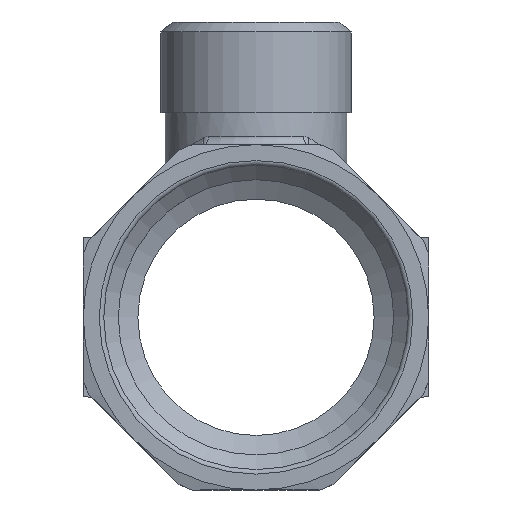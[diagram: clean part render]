
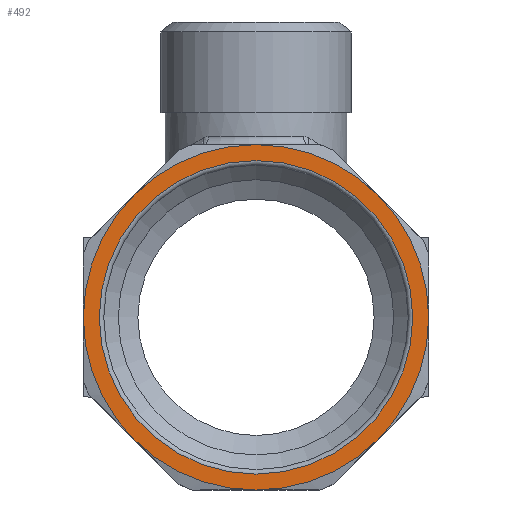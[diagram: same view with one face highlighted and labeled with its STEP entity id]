
A CAD part, front view. The second image highlights one B-rep face of the part: STEP entity #492.
In plain terms, the highlighted planar face has unit normal (0, -1, 0).
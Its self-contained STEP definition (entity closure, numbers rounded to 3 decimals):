
#492=ADVANCED_FACE('',(#5500,#5502),#5504,.F.);
#5500=FACE_BOUND('',#5501,.T.);
#5501=EDGE_LOOP('',(#10251,#10252,#10253,#10254,#10255,#10256,#10257,#10258));
#5502=FACE_BOUND('',#5503,.T.);
#5503=EDGE_LOOP('',(#10259));
#5504=PLANE('',#5505);
#5505=AXIS2_PLACEMENT_3D('',#5506,#5507,#5508);
#5506=CARTESIAN_POINT('',(0.,0.,0.));
#5507=DIRECTION('',(0.,1.,0.));
#5508=DIRECTION('',(-1.,0.,0.));
#10251=ORIENTED_EDGE('',*,*,#12918,.T.);
#10252=ORIENTED_EDGE('',*,*,#12917,.T.);
#10253=ORIENTED_EDGE('',*,*,#12916,.T.);
#10254=ORIENTED_EDGE('',*,*,#12923,.T.);
#10255=ORIENTED_EDGE('',*,*,#12922,.T.);
#10256=ORIENTED_EDGE('',*,*,#12921,.T.);
#10257=ORIENTED_EDGE('',*,*,#12920,.T.);
#10258=ORIENTED_EDGE('',*,*,#12919,.T.);
#10259=ORIENTED_EDGE('',*,*,#13103,.T.);
#12916=EDGE_CURVE('',#15473,#15529,#15569,.T.);
#12917=EDGE_CURVE('',#15481,#15473,#15570,.T.);
#12918=EDGE_CURVE('',#15489,#15481,#15571,.T.);
#12919=EDGE_CURVE('',#15497,#15489,#15572,.T.);
#12920=EDGE_CURVE('',#15505,#15497,#15573,.T.);
#12921=EDGE_CURVE('',#15513,#15505,#15574,.T.);
#12922=EDGE_CURVE('',#15521,#15513,#15575,.T.);
#12923=EDGE_CURVE('',#15529,#15521,#15576,.T.);
#13103=EDGE_CURVE('',#15935,#15935,#15936,.F.);
#15473=VERTEX_POINT('',#28514);
#15481=VERTEX_POINT('',#28573);
#15489=VERTEX_POINT('',#28622);
#15497=VERTEX_POINT('',#28683);
#15505=VERTEX_POINT('',#28732);
#15513=VERTEX_POINT('',#28791);
#15521=VERTEX_POINT('',#28840);
#15529=VERTEX_POINT('',#28899);
#15569=CIRCLE('',#29027,19.);
#15570=CIRCLE('',#29031,19.);
#15571=CIRCLE('',#29035,19.);
#15572=CIRCLE('',#29039,19.);
#15573=CIRCLE('',#29043,19.);
#15574=CIRCLE('',#29047,19.);
#15575=CIRCLE('',#29051,19.);
#15576=CIRCLE('',#29055,19.);
#15935=VERTEX_POINT('',#29778);
#15936=CIRCLE('',#29779,17.25);
#28514=CARTESIAN_POINT('',(0.,0.,19.));
#28573=CARTESIAN_POINT('',(13.435,0.,13.435));
#28622=CARTESIAN_POINT('',(19.,0.,0.));
#28683=CARTESIAN_POINT('',(13.435,0.,-13.435));
#28732=CARTESIAN_POINT('',(0.,0.,-19.));
#28791=CARTESIAN_POINT('',(-13.435,0.,-13.435));
#28840=CARTESIAN_POINT('',(-19.,0.,0.));
#28899=CARTESIAN_POINT('',(-13.435,0.,13.435));
#29027=AXIS2_PLACEMENT_3D('',#29028,#29029,#29030);
#29028=CARTESIAN_POINT('',(0.,0.,0.));
#29029=DIRECTION('',(0.,-1.,0.));
#29030=DIRECTION('',(0.,0.,1.));
#29031=AXIS2_PLACEMENT_3D('',#29032,#29033,#29034);
#29032=CARTESIAN_POINT('',(0.,0.,0.));
#29033=DIRECTION('',(0.,-1.,0.));
#29034=DIRECTION('',(0.707,0.,0.707));
#29035=AXIS2_PLACEMENT_3D('',#29036,#29037,#29038);
#29036=CARTESIAN_POINT('',(0.,0.,0.));
#29037=DIRECTION('',(0.,-1.,0.));
#29038=DIRECTION('',(1.,0.,0.));
#29039=AXIS2_PLACEMENT_3D('',#29040,#29041,#29042);
#29040=CARTESIAN_POINT('',(0.,0.,0.));
#29041=DIRECTION('',(0.,-1.,0.));
#29042=DIRECTION('',(0.707,0.,-0.707));
#29043=AXIS2_PLACEMENT_3D('',#29044,#29045,#29046);
#29044=CARTESIAN_POINT('',(0.,0.,0.));
#29045=DIRECTION('',(0.,-1.,0.));
#29046=DIRECTION('',(0.,0.,-1.));
#29047=AXIS2_PLACEMENT_3D('',#29048,#29049,#29050);
#29048=CARTESIAN_POINT('',(0.,0.,0.));
#29049=DIRECTION('',(0.,-1.,0.));
#29050=DIRECTION('',(-0.707,0.,-0.707));
#29051=AXIS2_PLACEMENT_3D('',#29052,#29053,#29054);
#29052=CARTESIAN_POINT('',(0.,0.,0.));
#29053=DIRECTION('',(0.,-1.,0.));
#29054=DIRECTION('',(-1.,0.,0.));
#29055=AXIS2_PLACEMENT_3D('',#29056,#29057,#29058);
#29056=CARTESIAN_POINT('',(0.,0.,0.));
#29057=DIRECTION('',(0.,-1.,0.));
#29058=DIRECTION('',(-0.707,0.,0.707));
#29778=CARTESIAN_POINT('',(17.25,0.,0.));
#29779=AXIS2_PLACEMENT_3D('',#29780,#29781,#29782);
#29780=CARTESIAN_POINT('',(0.,0.,0.));
#29781=DIRECTION('',(0.,-1.,0.));
#29782=DIRECTION('',(1.,0.,0.));
